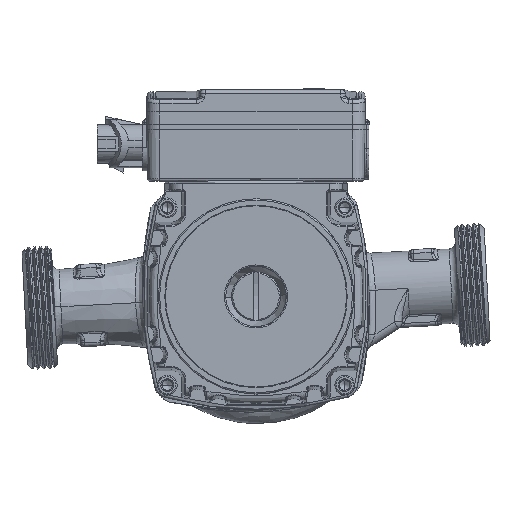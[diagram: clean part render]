
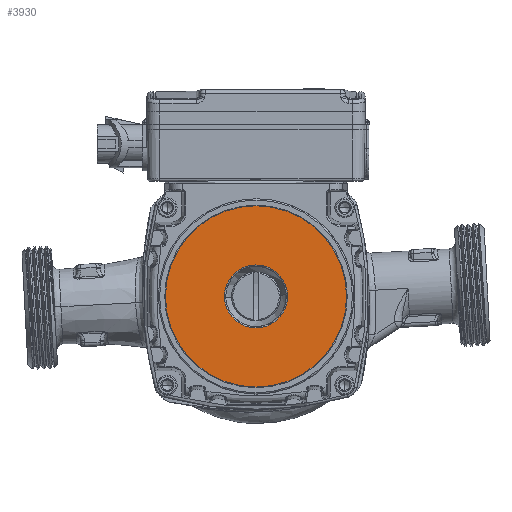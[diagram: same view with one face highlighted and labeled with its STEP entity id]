
A CAD part, front view. The second image highlights one B-rep face of the part: STEP entity #3930.
In plain terms, the highlighted planar face has unit normal (0, -1, 0).
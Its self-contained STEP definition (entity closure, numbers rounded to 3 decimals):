
#3930=ADVANCED_FACE('',(#36853,#36855),#36857,.F.);
#36853=FACE_BOUND('',#36854,.T.);
#36854=EDGE_LOOP('',(#74073));
#36855=FACE_BOUND('',#36856,.T.);
#36856=EDGE_LOOP('',(#74074));
#36857=PLANE('',#36858);
#36858=AXIS2_PLACEMENT_3D('',#36859,#36860,#36861);
#36859=CARTESIAN_POINT('',(0.,0.,0.2));
#36860=DIRECTION('',(0.,1.,0.));
#36861=DIRECTION('',(1.,0.,0.));
#74073=ORIENTED_EDGE('',*,*,#89474,.T.);
#74074=ORIENTED_EDGE('',*,*,#89475,.T.);
#89474=EDGE_CURVE('',#98259,#98259,#98260,.T.);
#89475=EDGE_CURVE('',#98261,#98261,#98262,.T.);
#98259=VERTEX_POINT('',#128539);
#98260=CIRCLE('',#128540,35.25);
#98261=VERTEX_POINT('',#128544);
#98262=CIRCLE('',#128545,12.25);
#128539=CARTESIAN_POINT('',(35.25,0.,0.2));
#128540=AXIS2_PLACEMENT_3D('',#128541,#128542,#128543);
#128541=CARTESIAN_POINT('',(0.,0.,0.2));
#128542=DIRECTION('',(0.,-1.,0.));
#128543=DIRECTION('',(1.,0.,0.));
#128544=CARTESIAN_POINT('',(12.25,0.,0.2));
#128545=AXIS2_PLACEMENT_3D('',#128546,#128547,#128548);
#128546=CARTESIAN_POINT('',(0.,0.,0.2));
#128547=DIRECTION('',(0.,1.,0.));
#128548=DIRECTION('',(1.,0.,-0.013));
